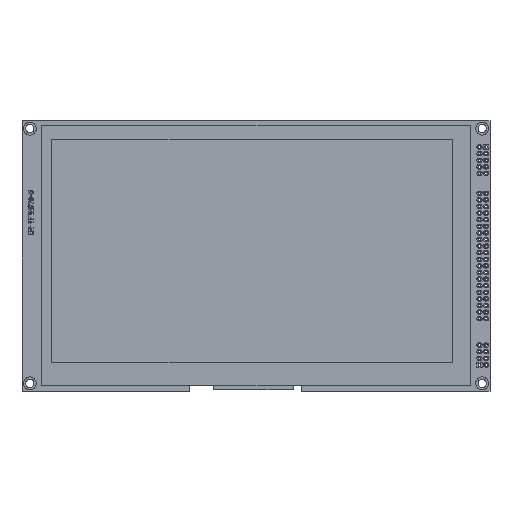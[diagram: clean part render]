
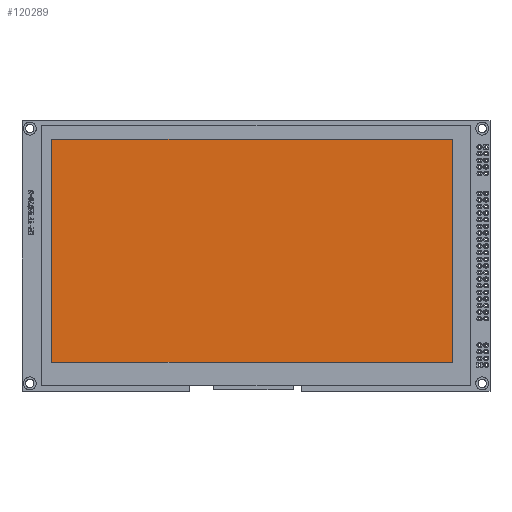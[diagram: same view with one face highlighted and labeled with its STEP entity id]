
A CAD part, top view. The second image highlights one B-rep face of the part: STEP entity #120289.
In plain terms, the highlighted free-form (B-spline) face has degree [1, 1] with [2, 2] control points.
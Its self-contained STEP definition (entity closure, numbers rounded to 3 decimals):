
#112=(GEOMETRIC_REPRESENTATION_CONTEXT(2)PARAMETRIC_REPRESENTATION_CONTEXT()REPRESENTATION_CONTEXT('',''));
#59541=CARTESIAN_POINT('',(11.47,11.04,4.3));
#59542=CARTESIAN_POINT('',(11.47,96.96,4.3));
#59543=CARTESIAN_POINT('',(11.47,11.04,0.8));
#59544=CARTESIAN_POINT('',(11.47,96.96,0.8));
#59545=B_SPLINE_SURFACE_WITH_KNOTS('',1,1,((#59541,#59542),(#59543,#59544)),.UNSPECIFIED.,.F.,.F.,.U.,(2,2),(2,2),(0.,0.004),(0.011,0.097),.UNSPECIFIED.);
#59564=CARTESIAN_POINT('',(11.47,96.96,4.3));
#59565=CARTESIAN_POINT('',(165.55,96.96,4.3));
#59566=CARTESIAN_POINT('',(11.47,96.96,0.8));
#59567=CARTESIAN_POINT('',(165.55,96.96,0.8));
#59568=B_SPLINE_SURFACE_WITH_KNOTS('',1,1,((#59564,#59565),(#59566,#59567)),.UNSPECIFIED.,.F.,.F.,.U.,(2,2),(2,2),(0.,0.004),(0.011,0.166),.UNSPECIFIED.);
#59587=CARTESIAN_POINT('',(165.55,11.04,0.8));
#59588=CARTESIAN_POINT('',(165.55,96.96,0.8));
#59589=CARTESIAN_POINT('',(165.55,11.04,4.3));
#59590=CARTESIAN_POINT('',(165.55,96.96,4.3));
#59591=B_SPLINE_SURFACE_WITH_KNOTS('',1,1,((#59587,#59588),(#59589,#59590)),.UNSPECIFIED.,.F.,.F.,.U.,(2,2),(2,2),(-0.004,0.),(0.011,0.097),.UNSPECIFIED.);
#59608=CARTESIAN_POINT('',(165.55,11.04,0.8));
#59609=CARTESIAN_POINT('',(165.55,11.04,4.3));
#59610=CARTESIAN_POINT('',(11.47,11.04,0.8));
#59611=CARTESIAN_POINT('',(11.47,11.04,4.3));
#59612=B_SPLINE_SURFACE_WITH_KNOTS('',1,1,((#59608,#59609),(#59610,#59611)),.UNSPECIFIED.,.F.,.F.,.U.,(2,2),(2,2),(-0.166,-0.011),(-0.004,0.),.UNSPECIFIED.);
#120119=CARTESIAN_POINT('',(11.47,96.96,4.3));
#120120=VERTEX_POINT('',#120119);
#120137=CARTESIAN_POINT('',(165.55,96.96,4.3));
#120138=VERTEX_POINT('',#120137);
#120139=CARTESIAN_POINT('',(11.47,11.04,4.3));
#120140=CARTESIAN_POINT('',(11.47,96.96,4.3));
#120141=CARTESIAN_POINT('',(165.55,11.04,4.3));
#120142=CARTESIAN_POINT('',(165.55,96.96,4.3));
#120143=B_SPLINE_SURFACE_WITH_KNOTS('',1,1,((#120139,#120140),(#120141,#120142)),.UNSPECIFIED.,.F.,.F.,.U.,(2,2),(2,2),(0.011,0.166),(0.011,0.097),.UNSPECIFIED.);
#120144=CARTESIAN_POINT('',(0.,0.166));
#120145=CARTESIAN_POINT('',(0.,0.011));
#120146=B_SPLINE_CURVE_WITH_KNOTS('',1,(#120144,#120145),.UNSPECIFIED.,.F.,.F.,(2,2),(-0.166,-0.011),.UNSPECIFIED.);
#120147=DEFINITIONAL_REPRESENTATION('',(#120146),#112);
#120148=PCURVE('',#59568,#120147);
#120149=CARTESIAN_POINT('',(0.166,0.097));
#120150=CARTESIAN_POINT('',(0.011,0.097));
#120151=B_SPLINE_CURVE_WITH_KNOTS('',1,(#120149,#120150),.UNSPECIFIED.,.F.,.F.,(2,2),(-0.166,-0.011),.UNSPECIFIED.);
#120152=DEFINITIONAL_REPRESENTATION('',(#120151),#112);
#120153=PCURVE('',#120143,#120152);
#120154=CARTESIAN_POINT('',(165.55,96.96,4.3));
#120155=CARTESIAN_POINT('',(11.47,96.96,4.3));
#120156=B_SPLINE_CURVE_WITH_KNOTS('',1,(#120154,#120155),.UNSPECIFIED.,.F.,.F.,(2,2),(-0.166,-0.011),.UNSPECIFIED.);
#120157=INTERSECTION_CURVE('',#120156,(#120148,#120153),.PCURVE_S1.);
#120158=EDGE_CURVE('',#120138,#120120,#120157,.T.);
#120181=CARTESIAN_POINT('',(11.47,11.04,4.3));
#120182=VERTEX_POINT('',#120181);
#120199=CARTESIAN_POINT('',(0.,0.097));
#120200=CARTESIAN_POINT('',(0.,0.011));
#120201=B_SPLINE_CURVE_WITH_KNOTS('',1,(#120199,#120200),.UNSPECIFIED.,.F.,.F.,(2,2),(-0.097,-0.011),.UNSPECIFIED.);
#120202=DEFINITIONAL_REPRESENTATION('',(#120201),#112);
#120203=PCURVE('',#59545,#120202);
#120204=CARTESIAN_POINT('',(0.011,0.097));
#120205=CARTESIAN_POINT('',(0.011,0.011));
#120206=B_SPLINE_CURVE_WITH_KNOTS('',1,(#120204,#120205),.UNSPECIFIED.,.F.,.F.,(2,2),(-0.097,-0.011),.UNSPECIFIED.);
#120207=DEFINITIONAL_REPRESENTATION('',(#120206),#112);
#120208=PCURVE('',#120143,#120207);
#120209=CARTESIAN_POINT('',(11.47,96.96,4.3));
#120210=CARTESIAN_POINT('',(11.47,11.04,4.3));
#120211=B_SPLINE_CURVE_WITH_KNOTS('',1,(#120209,#120210),.UNSPECIFIED.,.F.,.F.,(2,2),(-0.097,-0.011),.UNSPECIFIED.);
#120212=INTERSECTION_CURVE('',#120211,(#120203,#120208),.PCURVE_S1.);
#120213=EDGE_CURVE('',#120120,#120182,#120212,.T.);
#120221=CARTESIAN_POINT('',(165.55,11.04,4.3));
#120222=VERTEX_POINT('',#120221);
#120239=CARTESIAN_POINT('',(-0.011,0.));
#120240=CARTESIAN_POINT('',(-0.166,0.));
#120241=B_SPLINE_CURVE_WITH_KNOTS('',1,(#120239,#120240),.UNSPECIFIED.,.F.,.F.,(2,2),(0.011,0.166),.UNSPECIFIED.);
#120242=DEFINITIONAL_REPRESENTATION('',(#120241),#112);
#120243=PCURVE('',#59612,#120242);
#120244=CARTESIAN_POINT('',(0.011,0.011));
#120245=CARTESIAN_POINT('',(0.166,0.011));
#120246=B_SPLINE_CURVE_WITH_KNOTS('',1,(#120244,#120245),.UNSPECIFIED.,.F.,.F.,(2,2),(0.011,0.166),.UNSPECIFIED.);
#120247=DEFINITIONAL_REPRESENTATION('',(#120246),#112);
#120248=PCURVE('',#120143,#120247);
#120249=CARTESIAN_POINT('',(11.47,11.04,4.3));
#120250=CARTESIAN_POINT('',(165.55,11.04,4.3));
#120251=B_SPLINE_CURVE_WITH_KNOTS('',1,(#120249,#120250),.UNSPECIFIED.,.F.,.F.,(2,2),(0.011,0.166),.UNSPECIFIED.);
#120252=INTERSECTION_CURVE('',#120251,(#120243,#120248),.PCURVE_S1.);
#120253=EDGE_CURVE('',#120182,#120222,#120252,.T.);
#120262=CARTESIAN_POINT('',(0.,0.011));
#120263=CARTESIAN_POINT('',(0.,0.097));
#120264=B_SPLINE_CURVE_WITH_KNOTS('',1,(#120262,#120263),.UNSPECIFIED.,.F.,.F.,(2,2),(0.011,0.097),.UNSPECIFIED.);
#120265=DEFINITIONAL_REPRESENTATION('',(#120264),#112);
#120266=PCURVE('',#59591,#120265);
#120267=CARTESIAN_POINT('',(0.166,0.011));
#120268=CARTESIAN_POINT('',(0.166,0.097));
#120269=B_SPLINE_CURVE_WITH_KNOTS('',1,(#120267,#120268),.UNSPECIFIED.,.F.,.F.,(2,2),(0.011,0.097),.UNSPECIFIED.);
#120270=DEFINITIONAL_REPRESENTATION('',(#120269),#112);
#120271=PCURVE('',#120143,#120270);
#120272=CARTESIAN_POINT('',(165.55,11.04,4.3));
#120273=CARTESIAN_POINT('',(165.55,96.96,4.3));
#120274=B_SPLINE_CURVE_WITH_KNOTS('',1,(#120272,#120273),.UNSPECIFIED.,.F.,.F.,(2,2),(0.011,0.097),.UNSPECIFIED.);
#120275=INTERSECTION_CURVE('',#120274,(#120266,#120271),.PCURVE_S1.);
#120276=EDGE_CURVE('',#120222,#120138,#120275,.T.);
#120283=ORIENTED_EDGE('',*,*,#120158,.T.);
#120284=ORIENTED_EDGE('',*,*,#120213,.T.);
#120285=ORIENTED_EDGE('',*,*,#120253,.T.);
#120286=ORIENTED_EDGE('',*,*,#120276,.T.);
#120287=EDGE_LOOP('',(#120283,#120284,#120285,#120286));
#120288=FACE_BOUND('',#120287,.T.);
#120289=ADVANCED_FACE('',(#120288),#120143,.T.);
